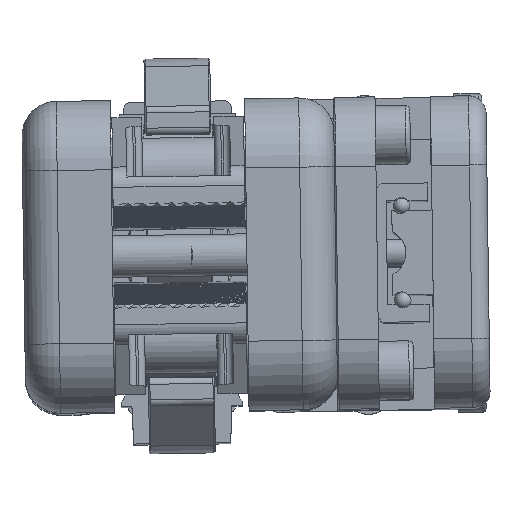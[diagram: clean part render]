
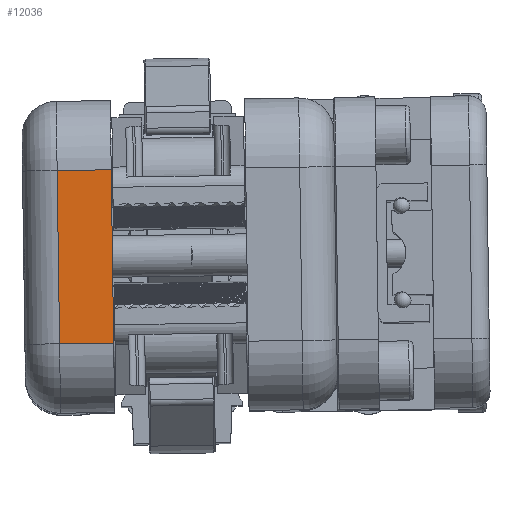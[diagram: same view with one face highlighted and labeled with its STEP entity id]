
A CAD part, top view. The second image highlights one B-rep face of the part: STEP entity #12036.
In plain terms, the highlighted planar face has unit normal (0, 0, 1).
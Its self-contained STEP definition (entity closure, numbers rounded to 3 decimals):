
#12036=ADVANCED_FACE('',(#14097),#13215,.F.);
#13215=PLANE('',#33305);
#14097=FACE_OUTER_BOUND('',#15440,.T.);
#15440=EDGE_LOOP('',(#20083,#20084,#20085,#20086));
#20083=ORIENTED_EDGE('',*,*,#26889,.T.);
#20084=ORIENTED_EDGE('',*,*,#26890,.T.);
#20085=ORIENTED_EDGE('',*,*,#26891,.T.);
#20086=ORIENTED_EDGE('',*,*,#26892,.T.);
#24408=VERTEX_POINT('',#44917);
#24409=VERTEX_POINT('',#44918);
#24410=VERTEX_POINT('',#44920);
#24411=VERTEX_POINT('',#44922);
#26889=EDGE_CURVE('',#24408,#24409,#29338,.T.);
#26890=EDGE_CURVE('',#24409,#24410,#29339,.T.);
#26891=EDGE_CURVE('',#24410,#24411,#29340,.T.);
#26892=EDGE_CURVE('',#24411,#24408,#29341,.T.);
#29338=LINE('',#44916,#31268);
#29339=LINE('',#44919,#31269);
#29340=LINE('',#44921,#31270);
#29341=LINE('',#44923,#31271);
#31268=VECTOR('',#37786,1.);
#31269=VECTOR('',#37787,1.);
#31270=VECTOR('',#37788,1.);
#31271=VECTOR('',#37789,1.);
#33305=AXIS2_PLACEMENT_3D('',#44924,#37790,#37791);
#37786=DIRECTION('',(0.014,-1.,0.));
#37787=DIRECTION('',(1.,0.014,0.));
#37788=DIRECTION('',(-0.014,1.,0.));
#37789=DIRECTION('',(-1.,-0.014,0.));
#37790=DIRECTION('',(0.,0.,-1.));
#37791=DIRECTION('',(-0.014,1.,0.));
#44916=CARTESIAN_POINT('',(-17.182,-22.744,282.));
#44917=CARTESIAN_POINT('',(-17.674,12.253,282.));
#44918=CARTESIAN_POINT('',(-17.322,-12.745,282.));
#44919=CARTESIAN_POINT('',(-22.322,-12.815,282.));
#44920=CARTESIAN_POINT('',(-9.523,-12.635,282.));
#44921=CARTESIAN_POINT('',(-10.016,22.361,282.));
#44922=CARTESIAN_POINT('',(-9.875,12.362,282.));
#44923=CARTESIAN_POINT('',(-22.674,12.182,282.));
#44924=CARTESIAN_POINT('',(-22.814,22.181,282.));
